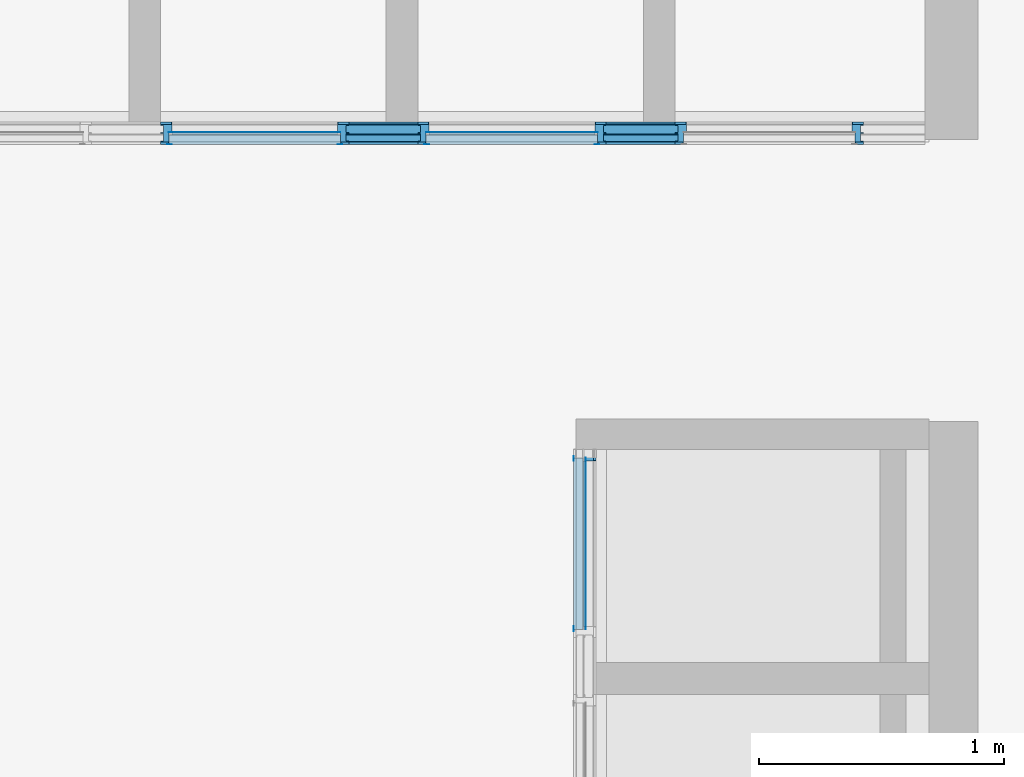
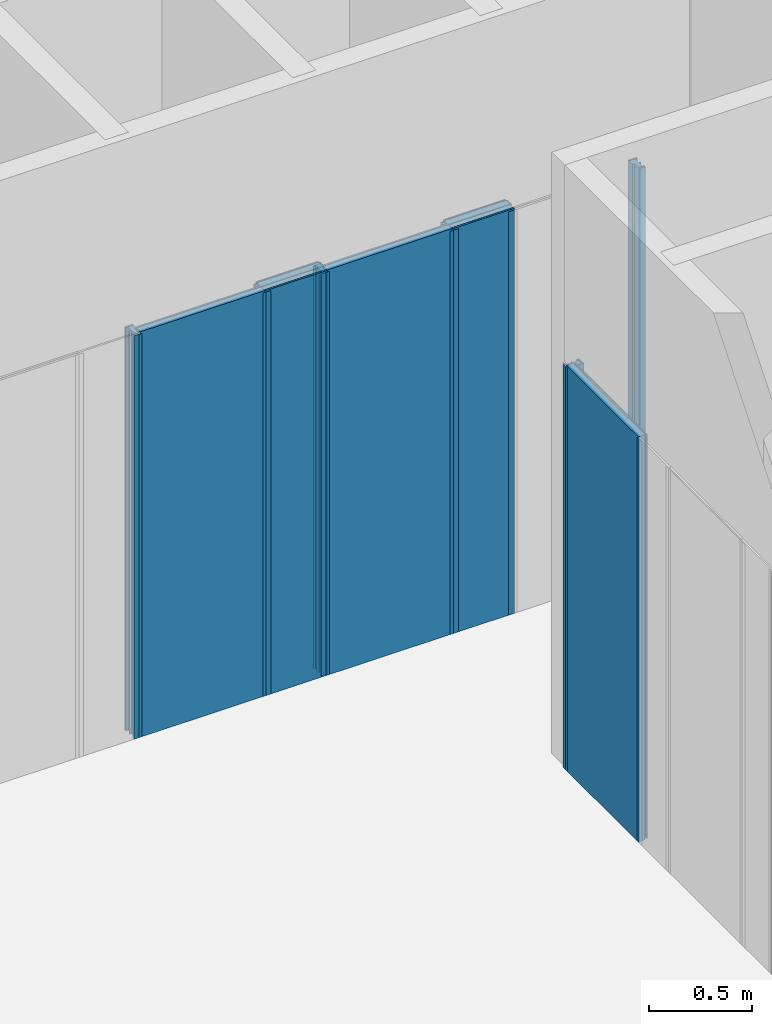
# One storey, part 21 of 89: 28 building element parts, 14 elements without a shape of their own.
"""IFC2X3 building model written with IfcOpenShell, lengths in millimetres."""

from ifc_helpers import new_model, entity, si_unit, converted_unit, derived_unit, money_unit, direction, frame, origin_with_axes, place, context, subcontext, project, spatial, open_shell, faceted_brep, surface_model, source, transform, mapped, material, type_object, element, aggregate, save


model = new_model("IFC2X3")

# Units and contexts
model_context = context("Model", 3, precision=0.01, world=origin_with_axes(), true_north=direction((0.0, 1.0)))
body_context = subcontext(model_context, "Body", "Model", "MODEL_VIEW")
ifc_project = project(units=[si_unit("LENGTHUNIT", "METRE", prefix="MILLI"), si_unit("AREAUNIT", "SQUARE_METRE"), si_unit("VOLUMEUNIT", "CUBIC_METRE"), converted_unit("PLANEANGLEUNIT", "DEGREE", entity("IfcPlaneAngleMeasure", 0.0174532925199), si_unit("PLANEANGLEUNIT", "RADIAN"), dimensions=[0, 0, 0, 0, 0, 0, 0]), si_unit("SOLIDANGLEUNIT", "STERADIAN"), money_unit("EUR"), converted_unit("TIMEUNIT", "Year", entity("IfcTimeMeasure", 31556926.0), si_unit("TIMEUNIT", "SECOND"), dimensions=[0, 0, 1, 0, 0, 0, 0]), si_unit("MASSUNIT", "GRAM", prefix="KILO"), si_unit("THERMODYNAMICTEMPERATUREUNIT", "DEGREE_CELSIUS"), si_unit("LUMINOUSINTENSITYUNIT", "LUMEN"), si_unit("ENERGYUNIT", "JOULE", prefix="MEGA"), derived_unit("THERMALCONDUCTANCEUNIT", [(si_unit("POWERUNIT", "WATT"), 1), (si_unit("LENGTHUNIT", "METRE"), -1), (si_unit("THERMODYNAMICTEMPERATUREUNIT", "KELVIN"), -1)]), derived_unit("SPECIFICHEATCAPACITYUNIT", [(si_unit("ENERGYUNIT", "JOULE"), 1), (si_unit("MASSUNIT", "GRAM", prefix="KILO"), -1), (si_unit("THERMODYNAMICTEMPERATUREUNIT", "KELVIN"), -1)]), derived_unit("MASSDENSITYUNIT", [(si_unit("MASSUNIT", "GRAM", prefix="KILO"), 1), (si_unit("VOLUMEUNIT", "CUBIC_METRE"), -1)])], contexts=[model_context])

# Site, building, storey
site_placement = place(None, origin_with_axes())
site = spatial("IfcSite", under=ifc_project, at=site_placement, Name="Puškini 31, Narva", CompositionType="ELEMENT")
building_placement = place(site_placement, origin_with_axes())
building = spatial("IfcBuilding", under=site, at=building_placement, Name="Narva Riigigümnaasium", CompositionType="ELEMENT")
storey_placement = place(building_placement, frame((0.0, 0.0, -3300.0), z_axis=(0.0, 0.0, 1.0), x_axis=(1.0, 0.0, 0.0)))
storey = spatial("IfcBuildingStorey", under=building, at=storey_placement, Name="1.korrus -3.3", CompositionType="ELEMENT", Elevation=-3300.0)

# Curtain wall, members, building element parts
curtain_wall_type = type_object("IfcCurtainWallType", Name="Curtain Wall Type", PredefinedType="NOTDEFINED")
curtain_wall_1_placement = place(storey_placement, frame((34541.9999996, 204639.999743, 1.06559201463e-05), z_axis=(0.0, 0.0, 1.0), x_axis=(1.0, 0.0, 0.0)))
curtain_wall_1 = element("IfcCurtainWall", 1, at=curtain_wall_1_placement, inside=storey, type_object=curtain_wall_type, Name="SUS-03")
member_type_1 = type_object("IfcMemberType", Name="SA-Siseuksesüsteem-P 46 x 0", PredefinedType="MULLION")
member_1_placement = place(curtain_wall_1_placement, frame((-143.0, 0.0, -1.06559197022e-05), z_axis=(0.0, 0.0, 1.0), x_axis=(1.0, 0.0, 0.0)))
member_1 = element("IfcMember", 2, at=member_1_placement, type_object=member_type_1, Name="Frame-SA-Siseuks-029", ObjectType="MULLION")
ifc_material_1 = material(Name="MDF")
shared_shape_1 = source(origin_with_axes(), body_context, "Body", "Brep", [
    faceted_brep([(33.9999997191, 9.99997870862, 0.0), (1.99999958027, 10.0000006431, 0.0), (1.99999958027, 10.0000006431, 2390.00000263), (33.9999997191, 9.99997870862, 2390.00000263), (33.9999997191, 0.0, 0.0), (1.99999958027, 0.0, 0.0), (1.99999958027, 0.0, 2390.00000263), (33.9999997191, 0.0, 2390.00000263)], [[[0, 1, 2, 3]], [[0, 4, 5, 1]], [[1, 5, 6, 2]], [[3, 2, 6, 7]], [[4, 0, 3, 7]], [[5, 4, 7, 6]]]),
    faceted_brep([(33.9999997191, 91.9999779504, 0.0), (-10.0000294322, 91.9999779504, 0.0), (-10.0000294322, 91.9999779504, 2390.00000263), (33.9999997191, 91.9999779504, 2390.00000263), (33.9999997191, 81.9999773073, 0.0), (-10.0000294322, 81.9999773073, 0.0), (-10.0000294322, 81.9999773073, 2390.00000263), (33.9999997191, 81.9999773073, 2390.00000263)], [[[0, 1, 2, 3]], [[0, 4, 5, 1]], [[1, 5, 6, 2]], [[3, 2, 6, 7]], [[4, 0, 3, 7]], [[5, 4, 7, 6]]]),
])
building_element_part_1_placement = place(member_1_placement, origin_with_axes())
building_element_part_1 = element("IfcBuildingElementPart", 3, at=building_element_part_1_placement, material=ifc_material_1, Name="MDF", context=body_context, shape_type="MappedRepresentation", body=[
    mapped(shared_shape_1, transform((0.0, 0.0, 0.0))),
])
member_2_placement = place(curtain_wall_1_placement, frame((-1193.17516676, 0.0, -1.06559197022e-05), z_axis=(0.0, 0.0, 1.0), x_axis=(1.0, 0.0, 0.0)))
member_2 = element("IfcMember", 4, at=member_2_placement, type_object=member_type_1, Name="Frame-SA-Siseuks-030", ObjectType="MULLION")
building_element_part_2_placement = place(member_2_placement, origin_with_axes())
building_element_part_2 = element("IfcBuildingElementPart", 5, at=building_element_part_2_placement, material=ifc_material_1, Name="MDF", context=body_context, shape_type="MappedRepresentation", body=[
    mapped(shared_shape_1, transform((0.0, 0.0, 0.0))),
])
member_3_placement = place(curtain_wall_1_placement, frame((-2243.17516676, 0.0, -1.06559197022e-05), z_axis=(0.0, 0.0, 1.0), x_axis=(1.0, 0.0, 0.0)))
member_3 = element("IfcMember", 6, at=member_3_placement, type_object=member_type_1, Name="Frame-SA-Siseuks-031", ObjectType="MULLION")
building_element_part_3_placement = place(member_3_placement, origin_with_axes())
building_element_part_3 = element("IfcBuildingElementPart", 7, at=building_element_part_3_placement, material=ifc_material_1, Name="MDF", context=body_context, shape_type="MappedRepresentation", body=[
    mapped(shared_shape_1, transform((0.0, 0.0, 0.0))),
])
ifc_material_2 = material(Name="Alumiiniumprofiil")
shared_shape_2 = source(origin_with_axes(), body_context, "Body", "Brep", [
    faceted_brep([(-12.0000002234, 47.5000006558, 0.0), (0.0, 47.5000006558, 0.0), (0.0, 47.5000006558, 2390.00000263), (-12.0000002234, 47.5000006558, 2390.00000263), (-12.0000002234, 91.9999779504, 0.0), (-10.0000006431, 91.9999779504, 0.0), (-10.0000294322, 81.9999773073, 0.0), (-9.99999927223, 81.5000003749, 0.0), (24.2499991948, 81.5000003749, 0.0), (33.9999997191, 81.5000003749, 0.0), (33.9999997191, 78.0000000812, 0.0), (22.4999997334, 78.0000000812, 0.0), (22.4999997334, 47.600000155, 0.0), (33.9999997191, 47.600000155, 0.0), (33.9999997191, 44.3999997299, 0.0), (22.4999997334, 44.3999997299, 0.0), (22.4999997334, 13.9999998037, 0.0), (33.9999997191, 13.9999998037, 0.0), (33.9999997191, 9.99997870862, 0.0), (32.0000001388, 9.99997870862, 0.0), (32.0000001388, 10.49999951, 0.0), (2.00000095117, 10.49999951, 0.0), (1.99999958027, 10.0000006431, 0.0), (2.00000095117, 0.0, 0.0), (0.0, 0.0, 0.0), (0.0, 32.9000011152, 0.0), (0.0, 32.9000011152, 2390.00000263), (0.0, 0.0, 2390.00000263), (2.00000095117, 0.0, 2390.00000263), (1.99999958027, 10.0000006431, 2390.00000263), (2.00000095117, 10.49999951, 2390.00000263), (32.0000001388, 10.49999951, 2390.00000263), (32.0000001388, 9.99997870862, 2390.00000263), (33.9999997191, 9.99997870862, 2390.00000263), (33.9999997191, 13.9999998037, 2390.00000263), (22.4999997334, 13.9999998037, 2390.00000263), (22.4999997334, 44.3999997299, 2390.00000263), (33.9999997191, 44.3999997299, 2390.00000263), (33.9999997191, 47.600000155, 2390.00000263), (22.4999997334, 47.600000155, 2390.00000263), (22.4999997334, 78.0000000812, 2390.00000263), (33.9999997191, 78.0000000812, 2390.00000263), (33.9999997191, 81.5000003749, 2390.00000263), (24.2499991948, 81.5000003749, 2390.00000263), (-9.99999927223, 81.5000003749, 2390.00000263), (-10.0000294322, 81.9999773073, 2390.00000263), (-10.0000006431, 91.9999779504, 2390.00000263), (-12.0000002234, 91.9999779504, 2390.00000263)], [[[0, 1, 2, 3]], [[0, 4, 5, 6, 7, 8, 9, 10, 11, 12, 13, 14, 15, 16, 17, 18, 19, 20, 21, 22, 23, 24, 25, 1]], [[1, 25, 26, 2]], [[3, 2, 26, 27, 28, 29, 30, 31, 32, 33, 34, 35, 36, 37, 38, 39, 40, 41, 42, 43, 44, 45, 46, 47]], [[4, 0, 3, 47]], [[5, 4, 47, 46]], [[6, 5, 46, 45]], [[7, 6, 45, 44]], [[8, 7, 44, 43]], [[9, 8, 43, 42]], [[10, 9, 42, 41]], [[11, 10, 41, 40]], [[12, 11, 40, 39]], [[13, 12, 39, 38]], [[14, 13, 38, 37]], [[15, 14, 37, 36]], [[16, 15, 36, 35]], [[17, 16, 35, 34]], [[18, 17, 34, 33]], [[19, 18, 33, 32]], [[20, 19, 32, 31]], [[21, 20, 31, 30]], [[22, 21, 30, 29]], [[23, 22, 29, 28]], [[24, 23, 28, 27]], [[25, 24, 27, 26]]]),
])
building_element_part_4_placement = place(member_1_placement, origin_with_axes())
building_element_part_4 = element("IfcBuildingElementPart", 8, at=building_element_part_4_placement, material=ifc_material_2, Name="Alumiiniumprofiil", context=body_context, shape_type="MappedRepresentation", body=[
    mapped(shared_shape_2, transform((0.0, 0.0, 0.0))),
])
aggregate(member_1, [building_element_part_1, building_element_part_4])
building_element_part_5_placement = place(member_2_placement, origin_with_axes())
building_element_part_5 = element("IfcBuildingElementPart", 9, at=building_element_part_5_placement, material=ifc_material_2, Name="Alumiiniumprofiil", context=body_context, shape_type="MappedRepresentation", body=[
    mapped(shared_shape_2, transform((0.0, 0.0, 0.0))),
])
aggregate(member_2, [building_element_part_2, building_element_part_5])
building_element_part_6_placement = place(member_3_placement, origin_with_axes())
building_element_part_6 = element("IfcBuildingElementPart", 10, at=building_element_part_6_placement, material=ifc_material_2, Name="Alumiiniumprofiil", context=body_context, shape_type="MappedRepresentation", body=[
    mapped(shared_shape_2, transform((0.0, 0.0, 0.0))),
])
aggregate(member_3, [building_element_part_3, building_element_part_6])

# Curtain wall, member, building element part
curtain_wall_2_placement = place(storey_placement, frame((33249.9999781, 201010.999711, -1.71671428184e-05), z_axis=(0.0, 0.0, 1.0), x_axis=(1.0, 0.0, 0.0)))
curtain_wall_2 = element("IfcCurtainWall", 11, at=curtain_wall_2_placement, inside=storey, type_object=curtain_wall_type, Name="SUS-02")
member_type_2 = type_object("IfcMemberType", Name="SA-Siseuksesüsteem-V 46 x -10", PredefinedType="MULLION")
member_4_placement = place(curtain_wall_2_placement, frame((0.0, 2350.00000032, 0.0), z_axis=(0.0, 0.0, 1.0), x_axis=(0.0, -1.0, 0.0)))
member_4 = element("IfcMember", 12, at=member_4_placement, type_object=member_type_2, Name="Frame-SA-Siseuks-038", ObjectType="MULLION")
shared_shape_3 = source(origin_with_axes(), body_context, "Body", "Brep", [
    faceted_brep([(-1.99999958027, 10.0000006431, 0.0), (-33.9999997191, 9.99997870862, 0.0), (-33.9999997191, 9.99997870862, 2390.00000263), (-1.99999958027, 10.0000006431, 2390.00000263), (-2.00000095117, 0.0, 0.0), (-33.9999997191, 0.0, 0.0), (-33.9999997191, 0.0, 2390.00000263), (-2.00000095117, 0.0, 2390.00000263)], [[[0, 1, 2, 3]], [[0, 4, 5, 1]], [[1, 5, 6, 2]], [[3, 2, 6, 7]], [[4, 0, 3, 7]], [[5, 4, 7, 6]]]),
    faceted_brep([(10.0000006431, 91.9999779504, 0.0), (-33.9999997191, 91.9999779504, 0.0), (-33.9999997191, 91.9999779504, 2390.00000263), (10.0000006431, 91.9999779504, 2390.00000263), (10.0000294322, 81.9999773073, 0.0), (-33.9999997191, 81.9999773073, 0.0), (-33.9999997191, 81.9999773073, 2390.00000263), (10.0000294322, 81.9999773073, 2390.00000263)], [[[0, 1, 2, 3]], [[0, 4, 5, 1]], [[1, 5, 6, 2]], [[3, 2, 6, 7]], [[4, 0, 3, 7]], [[5, 4, 7, 6]]]),
])
building_element_part_7_placement = place(member_4_placement, origin_with_axes())
building_element_part_7 = element("IfcBuildingElementPart", 13, at=building_element_part_7_placement, material=ifc_material_1, Name="MDF", context=body_context, shape_type="MappedRepresentation", body=[
    mapped(shared_shape_3, transform((0.0, 0.0, 0.0))),
])

# Member, building element part
member_type_3 = type_object("IfcMemberType", Name="SA-Siseuksesüsteem-V 46 x 0", PredefinedType="MULLION")
member_5_placement = place(curtain_wall_1_placement, frame((-843.175166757, 0.0, -1.06559197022e-05), z_axis=(0.0, 0.0, 1.0), x_axis=(1.0, 0.0, 0.0)))
member_5 = element("IfcMember", 14, at=member_5_placement, type_object=member_type_3, Name="Frame-New-Frame-030", ObjectType="MULLION")
building_element_part_8_placement = place(member_5_placement, origin_with_axes())
building_element_part_8 = element("IfcBuildingElementPart", 15, at=building_element_part_8_placement, material=ifc_material_1, Name="MDF", context=body_context, shape_type="MappedRepresentation", body=[
    mapped(shared_shape_3, transform((0.0, 0.0, 0.0))),
])

member_6_placement = place(curtain_wall_1_placement, frame((-1893.17516676, 0.0, -1.06559197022e-05), z_axis=(0.0, 0.0, 1.0), x_axis=(1.0, 0.0, 0.0)))
member_6 = element("IfcMember", 16, at=member_6_placement, type_object=member_type_3, Name="Frame-New-Frame-031", ObjectType="MULLION")
building_element_part_9_placement = place(member_6_placement, origin_with_axes())
building_element_part_9 = element("IfcBuildingElementPart", 17, at=building_element_part_9_placement, material=ifc_material_1, Name="MDF", context=body_context, shape_type="MappedRepresentation", body=[
    mapped(shared_shape_3, transform((0.0, 0.0, 0.0))),
])

member_7_placement = place(curtain_wall_1_placement, frame((-2943.17516676, 0.0, -1.06559197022e-05), z_axis=(0.0, 0.0, 1.0), x_axis=(1.0, 0.0, 0.0)))
member_7 = element("IfcMember", 18, at=member_7_placement, type_object=member_type_3, Name="Frame-New-Frame-032", ObjectType="MULLION")
building_element_part_10_placement = place(member_7_placement, origin_with_axes())
building_element_part_10 = element("IfcBuildingElementPart", 19, at=building_element_part_10_placement, material=ifc_material_1, Name="MDF", context=body_context, shape_type="MappedRepresentation", body=[
    mapped(shared_shape_3, transform((0.0, 0.0, 0.0))),
])

# Building element part
shared_shape_4 = source(origin_with_axes(), body_context, "Body", "Brep", [
    faceted_brep([(12.0000002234, 47.5000006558, 0.0), (12.0000002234, 91.9999779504, 0.0), (12.0000002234, 91.9999779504, 2390.00000263), (12.0000002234, 47.5000006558, 2390.00000263), (0.0, 47.5000006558, 0.0), (0.0, 32.9000011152, 0.0), (0.0, 0.0, 0.0), (-2.00000095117, 0.0, 0.0), (-1.99999958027, 10.0000006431, 0.0), (-2.00000095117, 10.49999951, 0.0), (-32.0000001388, 10.49999951, 0.0), (-32.0000001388, 9.99997870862, 0.0), (-33.9999997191, 9.99997870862, 0.0), (-33.9999997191, 13.9999998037, 0.0), (-22.4999997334, 13.9999998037, 0.0), (-22.4999997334, 44.3999997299, 0.0), (-33.9999997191, 44.3999997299, 0.0), (-33.9999997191, 47.600000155, 0.0), (-22.4999997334, 47.600000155, 0.0), (-22.4999997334, 78.0000000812, 0.0), (-33.9999997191, 78.0000000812, 0.0), (-33.9999997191, 81.5000003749, 0.0), (-24.2499991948, 81.5000003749, 0.0), (9.99999927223, 81.5000003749, 0.0), (10.0000294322, 81.9999773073, 0.0), (10.0000006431, 91.9999779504, 0.0), (10.0000006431, 91.9999779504, 2390.00000263), (10.0000294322, 81.9999773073, 2390.00000263), (9.99999927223, 81.5000003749, 2390.00000263), (-24.2499991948, 81.5000003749, 2390.00000263), (-33.9999997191, 81.5000003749, 2390.00000263), (-33.9999997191, 78.0000000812, 2390.00000263), (-22.4999997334, 78.0000000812, 2390.00000263), (-22.4999997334, 47.600000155, 2390.00000263), (-33.9999997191, 47.600000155, 2390.00000263), (-33.9999997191, 44.3999997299, 2390.00000263), (-22.4999997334, 44.3999997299, 2390.00000263), (-22.4999997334, 13.9999998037, 2390.00000263), (-33.9999997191, 13.9999998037, 2390.00000263), (-33.9999997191, 9.99997870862, 2390.00000263), (-32.0000001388, 9.99997870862, 2390.00000263), (-32.0000001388, 10.49999951, 2390.00000263), (-2.00000095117, 10.49999951, 2390.00000263), (-1.99999958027, 10.0000006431, 2390.00000263), (-2.00000095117, 0.0, 2390.00000263), (0.0, 0.0, 2390.00000263), (0.0, 32.9000011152, 2390.00000263), (0.0, 47.5000006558, 2390.00000263)], [[[0, 1, 2, 3]], [[0, 4, 5, 6, 7, 8, 9, 10, 11, 12, 13, 14, 15, 16, 17, 18, 19, 20, 21, 22, 23, 24, 25, 1]], [[1, 25, 26, 2]], [[3, 2, 26, 27, 28, 29, 30, 31, 32, 33, 34, 35, 36, 37, 38, 39, 40, 41, 42, 43, 44, 45, 46, 47]], [[4, 0, 3, 47]], [[5, 4, 47, 46]], [[6, 5, 46, 45]], [[7, 6, 45, 44]], [[8, 7, 44, 43]], [[9, 8, 43, 42]], [[10, 9, 42, 41]], [[11, 10, 41, 40]], [[12, 11, 40, 39]], [[13, 12, 39, 38]], [[14, 13, 38, 37]], [[15, 14, 37, 36]], [[16, 15, 36, 35]], [[17, 16, 35, 34]], [[18, 17, 34, 33]], [[19, 18, 33, 32]], [[20, 19, 32, 31]], [[21, 20, 31, 30]], [[22, 21, 30, 29]], [[23, 22, 29, 28]], [[24, 23, 28, 27]], [[25, 24, 27, 26]]]),
])
building_element_part_11_placement = place(member_4_placement, origin_with_axes())
building_element_part_11 = element("IfcBuildingElementPart", 20, at=building_element_part_11_placement, material=ifc_material_2, Name="Alumiiniumprofiil", context=body_context, shape_type="MappedRepresentation", body=[
    mapped(shared_shape_4, transform((0.0, 0.0, 0.0))),
])

aggregate(member_4, [building_element_part_7, building_element_part_11])

building_element_part_12_placement = place(member_5_placement, origin_with_axes())
building_element_part_12 = element("IfcBuildingElementPart", 21, at=building_element_part_12_placement, material=ifc_material_2, Name="Alumiiniumprofiil", context=body_context, shape_type="MappedRepresentation", body=[
    mapped(shared_shape_4, transform((0.0, 0.0, 0.0))),
])

aggregate(member_5, [building_element_part_8, building_element_part_12])

building_element_part_13_placement = place(member_6_placement, origin_with_axes())
building_element_part_13 = element("IfcBuildingElementPart", 22, at=building_element_part_13_placement, material=ifc_material_2, Name="Alumiiniumprofiil", context=body_context, shape_type="MappedRepresentation", body=[
    mapped(shared_shape_4, transform((0.0, 0.0, 0.0))),
])

aggregate(member_6, [building_element_part_9, building_element_part_13])

building_element_part_14_placement = place(member_7_placement, origin_with_axes())
building_element_part_14 = element("IfcBuildingElementPart", 23, at=building_element_part_14_placement, material=ifc_material_2, Name="Alumiiniumprofiil", context=body_context, shape_type="MappedRepresentation", body=[
    mapped(shared_shape_4, transform((0.0, 0.0, 0.0))),
])

aggregate(member_7, [building_element_part_10, building_element_part_14])

# Door
door_style = type_object("IfcDoorStyle", Name="SU-Sile 7 x 2390 x 0", ConstructionType="NOTDEFINED", OperationType="NOTDEFINED", ParameterTakesPrecedence=False, Sizeable=False)
door_1_placement = place(curtain_wall_2_placement, frame((0.0, 2000.00000032, 1195.00000131), z_axis=(0.0, 0.0, 1.0), x_axis=(0.0, -1.0, 0.0)))
door_1 = element("IfcDoor", 24, at=door_1_placement, type_object=door_style, Name="G-SU-026", ObjectType="DOOR")

aggregate(curtain_wall_2, [door_1, member_4])

# Building element part
ifc_material_3 = material(Name="Alumiiniumprofiil (RAL 7021)")
shared_shape_5 = source(origin_with_axes(), body_context, "Body", "SurfaceModel", [
    surface_model("IfcShellBasedSurfaceModel", [(699.999996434, 0.0, 50.0), (687.999996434, 0.0, 50.0), (687.999996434, 2390.00000263, 50.0), (699.999996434, 2402.00000263, 50.0)], [open_shell([[[0, 1, 2, 3]]])]),
    surface_model("IfcShellBasedSurfaceModel", [(687.999996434, 2390.00000263, 50.0), (12.0000018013, 2390.00000263, 50.0), (1.80131154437e-06, 2402.00000263, 50.0), (699.999996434, 2402.00000263, 50.0)], [open_shell([[[0, 1, 2, 3]]])]),
    surface_model("IfcShellBasedSurfaceModel", [(12.0000018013, 2390.00000263, 50.0), (12.0000018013, 0.0, 50.0), (1.80131154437e-06, 0.0, 50.0), (1.80131154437e-06, 2402.00000263, 50.0)], [open_shell([[[0, 1, 2, 3]]])]),
    surface_model("IfcShellBasedSurfaceModel", [(707.000000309, 0.0, 0.0), (687.999996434, 0.0, 0.0), (687.999996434, 2390.00000263, 0.0), (707.000000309, 2390.00000263, 0.0)], [open_shell([[[0, 1, 2, 3]]])]),
    surface_model("IfcShellBasedSurfaceModel", [(-7.00000002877, 2390.00000263, 0.0), (12.0000018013, 2390.00000263, 0.0), (12.0000018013, 0.0, 0.0), (-7.00000002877, 0.0, 0.0)], [open_shell([[[0, 1, 2, 3]]])]),
])
building_element_part_15_placement = place(door_1_placement, origin_with_axes())
building_element_part_15 = element("IfcBuildingElementPart", 25, at=building_element_part_15_placement, material=ifc_material_3, Name="Alumiiniumprofiil (RAL 7021)", context=body_context, shape_type="MappedRepresentation", body=[
    mapped(shared_shape_5, transform((350.0, 0.0, -1195.00000131), x_axis=(-1.0, 0.0, 0.0), y_axis=(0.0, 0.0, 1.0), z_axis=(0.0, 1.0, 0.0))),
])

# Door, building element part
door_2_placement = place(curtain_wall_1_placement, frame((-1543.17516676, 0.0, 1194.9999741), z_axis=(0.0, 0.0, 1.0), x_axis=(1.0, 0.0, 0.0)))
door_2 = element("IfcDoor", 26, at=door_2_placement, type_object=door_style, Name="G-SU-024", ObjectType="DOOR")
building_element_part_16_placement = place(door_2_placement, origin_with_axes())
building_element_part_16 = element("IfcBuildingElementPart", 27, at=building_element_part_16_placement, material=ifc_material_3, Name="Alumiiniumprofiil (RAL 7021)", context=body_context, shape_type="MappedRepresentation", body=[
    mapped(shared_shape_5, transform((350.0, 0.0, -1194.99998476), x_axis=(-1.0, 0.0, 0.0), y_axis=(0.0, 0.0, 1.0), z_axis=(0.0, 1.0, 0.0))),
])

door_3_placement = place(curtain_wall_1_placement, frame((-2593.17516676, 0.0, 1194.9999741), z_axis=(0.0, 0.0, 1.0), x_axis=(1.0, 0.0, 0.0)))
door_3 = element("IfcDoor", 28, at=door_3_placement, type_object=door_style, Name="G-SU-023", ObjectType="DOOR")
building_element_part_17_placement = place(door_3_placement, origin_with_axes())
building_element_part_17 = element("IfcBuildingElementPart", 29, at=building_element_part_17_placement, material=ifc_material_3, Name="Alumiiniumprofiil (RAL 7021)", context=body_context, shape_type="MappedRepresentation", body=[
    mapped(shared_shape_5, transform((350.0, 0.0, -1194.99998476), x_axis=(-1.0, 0.0, 0.0), y_axis=(0.0, 0.0, 1.0), z_axis=(0.0, 1.0, 0.0))),
])

# Building element part
shared_shape_6 = source(origin_with_axes(), body_context, "Body", "Brep", [
    faceted_brep([(1.80131110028e-06, 0.0, 38.1818181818), (1.80131110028e-06, 0.0, 0.0), (699.999996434, 0.0, 0.0), (699.999996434, 0.0, 38.1818181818), (1.80131110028e-06, 2402.00000263, 38.1818181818), (1.80131110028e-06, 2402.00000263, 0.0), (699.999996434, 2402.00000263, 0.0), (699.999996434, 2402.00000263, 38.1818181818)], [[[0, 1, 2, 3]], [[4, 5, 1, 0]], [[1, 5, 6, 2]], [[3, 2, 6, 7]], [[0, 3, 7, 4]], [[7, 6, 5, 4]]]),
    faceted_brep([(12.0000017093, 0.0, 50.0), (12.0000017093, 0.0, 38.1818181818), (687.999996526, 0.0, 38.1818181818), (687.999996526, 0.0, 50.0), (12.0000017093, 2388.27428832, 50.0), (12.0000017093, 2388.27428832, 38.1818181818), (687.999996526, 2388.27428832, 38.1818181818), (687.999996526, 2388.27428832, 50.0)], [[[0, 1, 2, 3]], [[4, 5, 1, 0]], [[1, 5, 6, 2]], [[3, 2, 6, 7]], [[0, 3, 7, 4]], [[7, 6, 5, 4]]]),
])
building_element_part_18_placement = place(door_1_placement, origin_with_axes())
building_element_part_18 = element("IfcBuildingElementPart", 30, at=building_element_part_18_placement, material=ifc_material_1, Name="MDF", context=body_context, shape_type="MappedRepresentation", body=[
    mapped(shared_shape_6, transform((350.0, 0.0, -1195.00000131), x_axis=(-1.0, 0.0, 0.0), y_axis=(0.0, 0.0, 1.0), z_axis=(0.0, 1.0, 0.0))),
])

aggregate(door_1, [building_element_part_15, building_element_part_18])

building_element_part_19_placement = place(door_2_placement, origin_with_axes())
building_element_part_19 = element("IfcBuildingElementPart", 31, at=building_element_part_19_placement, material=ifc_material_1, Name="MDF", context=body_context, shape_type="MappedRepresentation", body=[
    mapped(shared_shape_6, transform((350.0, 0.0, -1194.99998476), x_axis=(-1.0, 0.0, 0.0), y_axis=(0.0, 0.0, 1.0), z_axis=(0.0, 1.0, 0.0))),
])

aggregate(door_2, [building_element_part_16, building_element_part_19])

building_element_part_20_placement = place(door_3_placement, origin_with_axes())
building_element_part_20 = element("IfcBuildingElementPart", 32, at=building_element_part_20_placement, material=ifc_material_1, Name="MDF", context=body_context, shape_type="MappedRepresentation", body=[
    mapped(shared_shape_6, transform((350.0, 0.0, -1194.99998476), x_axis=(-1.0, 0.0, 0.0), y_axis=(0.0, 0.0, 1.0), z_axis=(0.0, 1.0, 0.0))),
])

aggregate(door_3, [building_element_part_17, building_element_part_20])

# Plate, building element part
plate_type = type_object("IfcPlateType", Name="SA-Siseuksesüsteem-Paneel 350 x 10 x 0", PredefinedType="CURTAIN_PANEL")
plate_1_placement = place(curtain_wall_1_placement, frame((-1018.17516676, 0.0, 1596.66663924), z_axis=(0.0, 0.0, 1.0), x_axis=(1.0, 0.0, 0.0)))
plate_1 = element("IfcPlate", 33, at=plate_1_placement, type_object=plate_type, Name="Panel-SA-Siseuks-056", ObjectType="CURTAIN_PANEL")
shared_shape_7 = source(origin_with_axes(), body_context, "Body", "Brep", [
    faceted_brep([(349.999997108, 2399.99998017, 0.0), (0.0, 2399.99998017, 0.0), (0.0, 2399.99998017, 10.0), (349.999997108, 2399.99998017, 10.0), (349.999997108, 2389.99998025, 0.0), (315.999997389, 2389.99998025, 0.0), (315.999997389, 0.0, 0.0), (33.9999997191, 0.0, 0.0), (33.9999997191, 2389.99998025, 0.0), (0.0, 2389.99998025, 0.0), (0.0, 2389.99998025, 10.0), (33.9999997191, 2389.99998025, 10.0), (33.9999997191, 0.0, 10.0), (315.999997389, 0.0, 10.0), (315.999997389, 2389.99998025, 10.0), (349.999997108, 2389.99998025, 10.0)], [[[0, 1, 2, 3]], [[0, 4, 5, 6, 7, 8, 9, 1]], [[1, 9, 10, 2]], [[3, 2, 10, 11, 12, 13, 14, 15]], [[4, 0, 3, 15]], [[5, 4, 15, 14]], [[6, 5, 14, 13]], [[7, 6, 13, 12]], [[8, 7, 12, 11]], [[9, 8, 11, 10]]]),
    faceted_brep([(349.999997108, 2399.99998017, 84.0), (0.0, 2399.99998017, 84.0), (0.0, 2399.99998017, 92.0), (349.999997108, 2399.99998017, 92.0), (349.999997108, 2389.99998025, 84.0), (315.999997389, 2389.99998025, 84.0), (315.999997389, 0.0, 84.0), (33.9999997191, 0.0, 84.0), (33.9999997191, 2389.99998025, 84.0), (0.0, 2389.99998025, 84.0), (0.0, 2389.99998025, 92.0), (33.9999997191, 2389.99998025, 92.0), (33.9999997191, 0.0, 92.0), (315.999997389, 0.0, 92.0), (315.999997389, 2389.99998025, 92.0), (349.999997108, 2389.99998025, 92.0)], [[[0, 1, 2, 3]], [[0, 4, 5, 6, 7, 8, 9, 1]], [[1, 9, 10, 2]], [[3, 2, 10, 11, 12, 13, 14, 15]], [[4, 0, 3, 15]], [[5, 4, 15, 14]], [[6, 5, 14, 13]], [[7, 6, 13, 12]], [[8, 7, 12, 11]], [[9, 8, 11, 10]]]),
])
building_element_part_21_placement = place(plate_1_placement, origin_with_axes())
building_element_part_21 = element("IfcBuildingElementPart", 34, at=building_element_part_21_placement, material=ifc_material_1, Name="MDF", context=body_context, shape_type="MappedRepresentation", body=[
    mapped(shared_shape_7, transform((175.0, 0.0, -1596.66664989), x_axis=(-1.0, 0.0, 0.0), y_axis=(0.0, 0.0, 1.0), z_axis=(0.0, 1.0, 0.0))),
])

# Plate
plate_2_placement = place(curtain_wall_1_placement, frame((-2068.17516676, 0.0, 1596.66663924), z_axis=(0.0, 0.0, 1.0), x_axis=(1.0, 0.0, 0.0)))
plate_2 = element("IfcPlate", 35, at=plate_2_placement, type_object=plate_type, Name="Panel-SA-Siseuks-057", ObjectType="CURTAIN_PANEL")

aggregate(curtain_wall_1, [door_2, door_3, member_1, member_5, member_2, member_6, member_3, member_7, plate_1, plate_2])

# Building element part
building_element_part_22_placement = place(plate_2_placement, origin_with_axes())
building_element_part_22 = element("IfcBuildingElementPart", 36, at=building_element_part_22_placement, material=ifc_material_1, Name="MDF", context=body_context, shape_type="MappedRepresentation", body=[
    mapped(shared_shape_7, transform((175.0, 0.0, -1596.66664989), x_axis=(-1.0, 0.0, 0.0), y_axis=(0.0, 0.0, 1.0), z_axis=(0.0, 1.0, 0.0))),
])

ifc_material_4 = material(Name="Õhkvahe")
shared_shape_8 = source(origin_with_axes(), body_context, "Body", "Brep", [
    faceted_brep([(349.999997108, 2399.99998017, 10.0), (0.0, 2399.99998017, 10.0), (0.0, 2399.99998017, 12.0), (349.999997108, 2399.99998017, 12.0), (349.999997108, 2389.99998025, 10.0), (315.999997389, 2389.99998025, 10.0), (315.999997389, 0.0, 10.0), (33.9999997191, 0.0, 10.0), (33.9999997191, 2389.99998025, 10.0), (0.0, 2389.99998025, 10.0), (0.0, 2389.99998025, 12.0), (33.9999997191, 2389.99998025, 12.0), (33.9999997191, 0.0, 12.0), (315.999997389, 0.0, 12.0), (315.999997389, 2389.99998025, 12.0), (349.999997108, 2389.99998025, 12.0)], [[[0, 1, 2, 3]], [[0, 4, 5, 6, 7, 8, 9, 1]], [[1, 9, 10, 2]], [[3, 2, 10, 11, 12, 13, 14, 15]], [[4, 0, 3, 15]], [[5, 4, 15, 14]], [[6, 5, 14, 13]], [[7, 6, 13, 12]], [[8, 7, 12, 11]], [[9, 8, 11, 10]]]),
    faceted_brep([(349.999997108, 2399.99998017, 38.0), (0.0, 2399.99998017, 38.0), (0.0, 2399.99998017, 42.0), (349.999997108, 2399.99998017, 42.0), (349.999997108, 2389.99998025, 38.0), (315.999997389, 2389.99998025, 38.0), (315.999997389, 0.0, 38.0), (33.9999997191, 0.0, 38.0), (33.9999997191, 2389.99998025, 38.0), (0.0, 2389.99998025, 38.0), (0.0, 2389.99998025, 42.0), (33.9999997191, 2389.99998025, 42.0), (33.9999997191, 0.0, 42.0), (315.999997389, 0.0, 42.0), (315.999997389, 2389.99998025, 42.0), (349.999997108, 2389.99998025, 42.0)], [[[0, 1, 2, 3]], [[0, 4, 5, 6, 7, 8, 9, 1]], [[1, 9, 10, 2]], [[3, 2, 10, 11, 12, 13, 14, 15]], [[4, 0, 3, 15]], [[5, 4, 15, 14]], [[6, 5, 14, 13]], [[7, 6, 13, 12]], [[8, 7, 12, 11]], [[9, 8, 11, 10]]]),
    faceted_brep([(349.999997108, 2399.99998017, 79.0), (0.0, 2399.99998017, 79.0), (0.0, 2399.99998017, 84.0), (349.999997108, 2399.99998017, 84.0), (349.999997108, 2389.99998025, 79.0), (315.999997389, 2389.99998025, 79.0), (315.999997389, 0.0, 79.0), (33.9999997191, 0.0, 79.0), (33.9999997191, 2389.99998025, 79.0), (0.0, 2389.99998025, 79.0), (0.0, 2389.99998025, 84.0), (33.9999997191, 2389.99998025, 84.0), (33.9999997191, 0.0, 84.0), (315.999997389, 0.0, 84.0), (315.999997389, 2389.99998025, 84.0), (349.999997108, 2389.99998025, 84.0)], [[[0, 1, 2, 3]], [[0, 4, 5, 6, 7, 8, 9, 1]], [[1, 9, 10, 2]], [[3, 2, 10, 11, 12, 13, 14, 15]], [[4, 0, 3, 15]], [[5, 4, 15, 14]], [[6, 5, 14, 13]], [[7, 6, 13, 12]], [[8, 7, 12, 11]], [[9, 8, 11, 10]]]),
])
building_element_part_23_placement = place(plate_1_placement, origin_with_axes())
building_element_part_23 = element("IfcBuildingElementPart", 37, at=building_element_part_23_placement, material=ifc_material_4, Name="Õhkvahe", context=body_context, shape_type="MappedRepresentation", body=[
    mapped(shared_shape_8, transform((175.0, 0.0, -1596.66664989), x_axis=(-1.0, 0.0, 0.0), y_axis=(0.0, 0.0, 1.0), z_axis=(0.0, 1.0, 0.0))),
])

building_element_part_24_placement = place(plate_2_placement, origin_with_axes())
building_element_part_24 = element("IfcBuildingElementPart", 38, at=building_element_part_24_placement, material=ifc_material_4, Name="Õhkvahe", context=body_context, shape_type="MappedRepresentation", body=[
    mapped(shared_shape_8, transform((175.0, 0.0, -1596.66664989), x_axis=(-1.0, 0.0, 0.0), y_axis=(0.0, 0.0, 1.0), z_axis=(0.0, 1.0, 0.0))),
])

ifc_material_5 = material(Name="Kipsplaat")
shared_shape_9 = source(origin_with_axes(), body_context, "Body", "Brep", [
    faceted_brep([(349.999997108, 2399.99998017, 12.0), (0.0, 2399.99998017, 12.0), (0.0, 2399.99998017, 25.0), (349.999997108, 2399.99998017, 25.0), (349.999997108, 2389.99998025, 12.0), (315.999997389, 2389.99998025, 12.0), (315.999997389, 0.0, 12.0), (33.9999997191, 0.0, 12.0), (33.9999997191, 2389.99998025, 12.0), (0.0, 2389.99998025, 12.0), (0.0, 2389.99998025, 25.0), (33.9999997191, 2389.99998025, 25.0), (33.9999997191, 0.0, 25.0), (315.999997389, 0.0, 25.0), (315.999997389, 2389.99998025, 25.0), (349.999997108, 2389.99998025, 25.0)], [[[0, 1, 2, 3]], [[0, 4, 5, 6, 7, 8, 9, 1]], [[1, 9, 10, 2]], [[3, 2, 10, 11, 12, 13, 14, 15]], [[4, 0, 3, 15]], [[5, 4, 15, 14]], [[6, 5, 14, 13]], [[7, 6, 13, 12]], [[8, 7, 12, 11]], [[9, 8, 11, 10]]]),
    faceted_brep([(349.999997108, 2399.99998017, 25.0), (0.0, 2399.99998017, 25.0), (0.0, 2399.99998017, 38.0), (349.999997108, 2399.99998017, 38.0), (349.999997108, 2389.99998025, 25.0), (315.999997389, 2389.99998025, 25.0), (315.999997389, 0.0, 25.0), (33.9999997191, 0.0, 25.0), (33.9999997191, 2389.99998025, 25.0), (0.0, 2389.99998025, 25.0), (0.0, 2389.99998025, 38.0), (33.9999997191, 2389.99998025, 38.0), (33.9999997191, 0.0, 38.0), (315.999997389, 0.0, 38.0), (315.999997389, 2389.99998025, 38.0), (349.999997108, 2389.99998025, 38.0)], [[[0, 1, 2, 3]], [[0, 4, 5, 6, 7, 8, 9, 1]], [[1, 9, 10, 2]], [[3, 2, 10, 11, 12, 13, 14, 15]], [[4, 0, 3, 15]], [[5, 4, 15, 14]], [[6, 5, 14, 13]], [[7, 6, 13, 12]], [[8, 7, 12, 11]], [[9, 8, 11, 10]]]),
])
building_element_part_25_placement = place(plate_1_placement, origin_with_axes())
building_element_part_25 = element("IfcBuildingElementPart", 39, at=building_element_part_25_placement, material=ifc_material_5, Name="Kipsplaat", context=body_context, shape_type="MappedRepresentation", body=[
    mapped(shared_shape_9, transform((175.0, 0.0, -1596.66664989), x_axis=(-1.0, 0.0, 0.0), y_axis=(0.0, 0.0, 1.0), z_axis=(0.0, 1.0, 0.0))),
])

building_element_part_26_placement = place(plate_2_placement, origin_with_axes())
building_element_part_26 = element("IfcBuildingElementPart", 40, at=building_element_part_26_placement, material=ifc_material_5, Name="Kipsplaat", context=body_context, shape_type="MappedRepresentation", body=[
    mapped(shared_shape_9, transform((175.0, 0.0, -1596.66664989), x_axis=(-1.0, 0.0, 0.0), y_axis=(0.0, 0.0, 1.0), z_axis=(0.0, 1.0, 0.0))),
])

ifc_material_6 = material(Name="Klaasvill")
shared_shape_10 = source(origin_with_axes(), body_context, "Body", "Brep", [
    faceted_brep([(349.999997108, 2399.99998017, 42.0), (0.0, 2399.99998017, 42.0), (0.0, 2399.99998017, 79.0), (349.999997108, 2399.99998017, 79.0), (349.999997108, 2389.99998025, 42.0), (315.999997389, 2389.99998025, 42.0), (315.999997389, 0.0, 42.0), (33.9999997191, 0.0, 42.0), (33.9999997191, 2389.99998025, 42.0), (0.0, 2389.99998025, 42.0), (0.0, 2389.99998025, 79.0), (33.9999997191, 2389.99998025, 79.0), (33.9999997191, 0.0, 79.0), (315.999997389, 0.0, 79.0), (315.999997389, 2389.99998025, 79.0), (349.999997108, 2389.99998025, 79.0)], [[[0, 1, 2, 3]], [[0, 4, 5, 6, 7, 8, 9, 1]], [[1, 9, 10, 2]], [[3, 2, 10, 11, 12, 13, 14, 15]], [[4, 0, 3, 15]], [[5, 4, 15, 14]], [[6, 5, 14, 13]], [[7, 6, 13, 12]], [[8, 7, 12, 11]], [[9, 8, 11, 10]]]),
])
building_element_part_27_placement = place(plate_1_placement, origin_with_axes())
building_element_part_27 = element("IfcBuildingElementPart", 41, at=building_element_part_27_placement, material=ifc_material_6, Name="Klaasvill", context=body_context, shape_type="MappedRepresentation", body=[
    mapped(shared_shape_10, transform((175.0, 0.0, -1596.66664989), x_axis=(-1.0, 0.0, 0.0), y_axis=(0.0, 0.0, 1.0), z_axis=(0.0, 1.0, 0.0))),
])

aggregate(plate_1, [building_element_part_21, building_element_part_23, building_element_part_25, building_element_part_27])

building_element_part_28_placement = place(plate_2_placement, origin_with_axes())
building_element_part_28 = element("IfcBuildingElementPart", 42, at=building_element_part_28_placement, material=ifc_material_6, Name="Klaasvill", context=body_context, shape_type="MappedRepresentation", body=[
    mapped(shared_shape_10, transform((175.0, 0.0, -1596.66664989), x_axis=(-1.0, 0.0, 0.0), y_axis=(0.0, 0.0, 1.0), z_axis=(0.0, 1.0, 0.0))),
])

aggregate(plate_2, [building_element_part_22, building_element_part_24, building_element_part_26, building_element_part_28])

save(model, "model.ifc")
